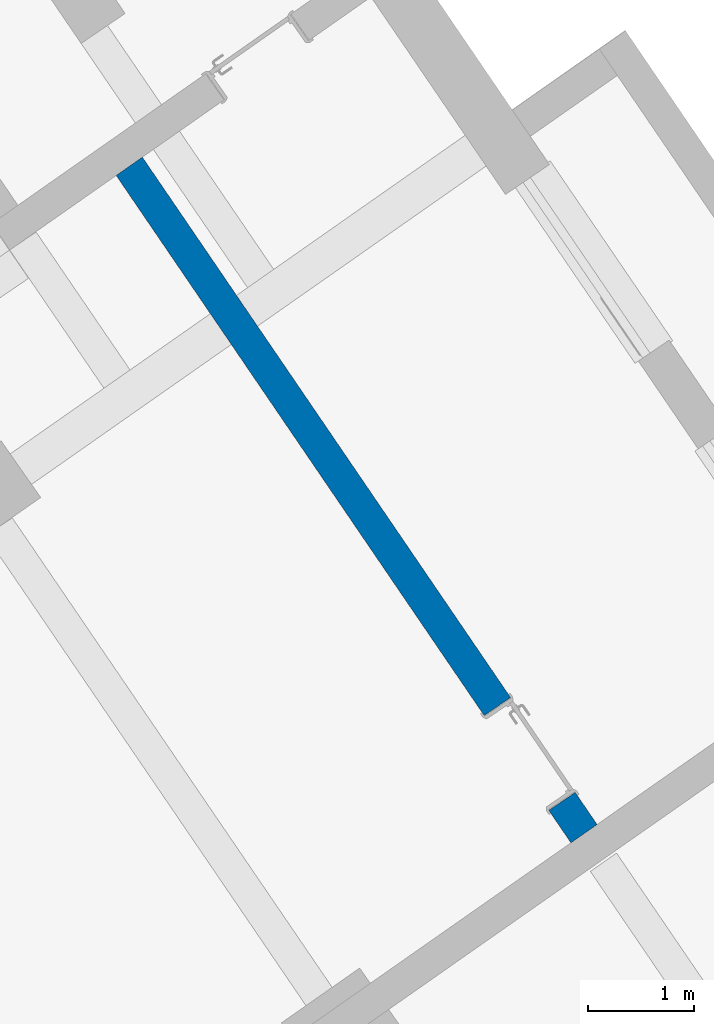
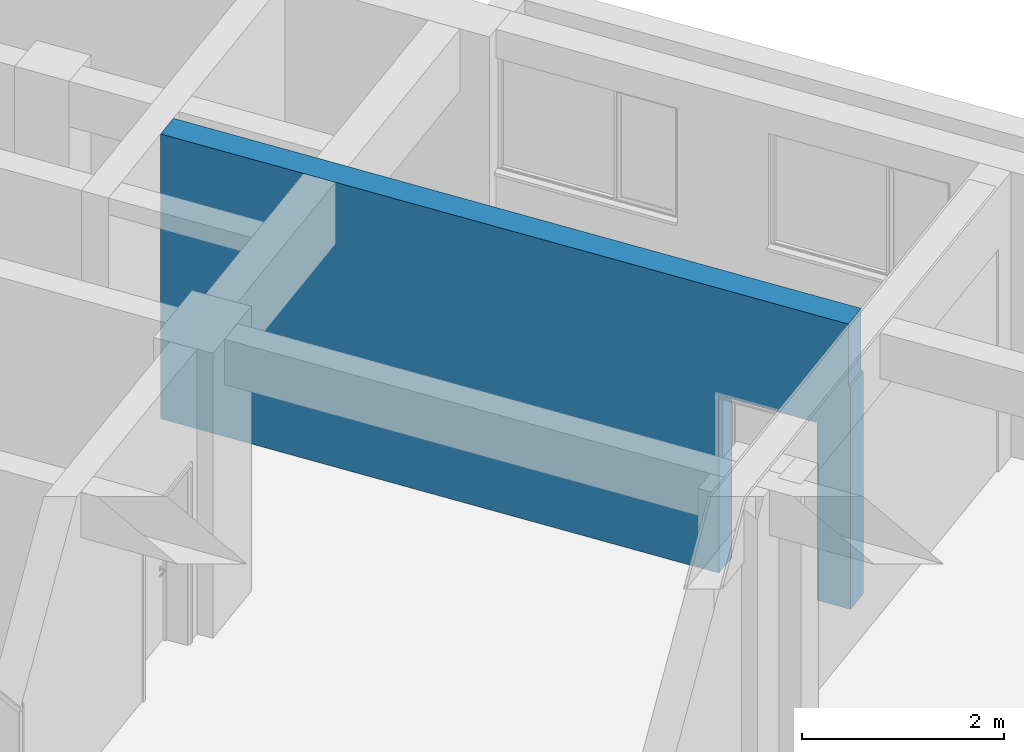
# One storey, part 85 of 112: 1 wall, 1 opening.
"""IFC2X3 building model written with IfcOpenShell, lengths in millimetres."""

from ifc_helpers import new_model, entity, si_unit, converted_unit, derived_unit, direction, frame, frame_2d, origin, place, context, subcontext, project, spatial, rectangle, extrude, faceted_brep, material, layer, layer_set, type_object, element, save


model = new_model("IFC2X3")

# Units and contexts
model_context = context("Model", 3, precision=0.01, world=origin(), true_north=direction((6.123031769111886e-17, 1.0)))
body_context = subcontext(model_context, "Body", "Model", "MODEL_VIEW")
ifc_project = project(units=[si_unit("LENGTHUNIT", "METRE", prefix="MILLI"), si_unit("AREAUNIT", "SQUARE_METRE"), si_unit("VOLUMEUNIT", "CUBIC_METRE"), converted_unit("PLANEANGLEUNIT", "DEGREE", entity("IfcRatioMeasure", 0.017453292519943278), si_unit("PLANEANGLEUNIT", "RADIAN"), dimensions=[0, 0, 0, 0, 0, 0, 0]), si_unit("MASSUNIT", "GRAM", prefix="KILO"), derived_unit("MASSDENSITYUNIT", [(si_unit("MASSUNIT", "GRAM", prefix="KILO"), 1), (si_unit("LENGTHUNIT", "METRE"), -3)]), derived_unit("MOMENTOFINERTIAUNIT", [(si_unit("LENGTHUNIT", "METRE"), 4)]), si_unit("TIMEUNIT", "SECOND"), si_unit("FREQUENCYUNIT", "HERTZ"), si_unit("THERMODYNAMICTEMPERATUREUNIT", "DEGREE_CELSIUS"), derived_unit("THERMALTRANSMITTANCEUNIT", [(si_unit("MASSUNIT", "GRAM", prefix="KILO"), 1), (si_unit("THERMODYNAMICTEMPERATUREUNIT", "KELVIN"), -1), (si_unit("TIMEUNIT", "SECOND"), -3)]), derived_unit("THERMALCONDUCTANCEUNIT", [(si_unit("MASSUNIT", "GRAM", prefix="KILO"), 1), (si_unit("LENGTHUNIT", "METRE"), 1), (si_unit("THERMODYNAMICTEMPERATUREUNIT", "KELVIN"), -1), (si_unit("TIMEUNIT", "SECOND"), -3)]), derived_unit("VOLUMETRICFLOWRATEUNIT", [(si_unit("LENGTHUNIT", "METRE"), 3), (si_unit("TIMEUNIT", "SECOND"), -1)]), derived_unit("MASSFLOWRATEUNIT", [(si_unit("MASSUNIT", "GRAM", prefix="KILO"), 1), (si_unit("TIMEUNIT", "SECOND"), -1)]), derived_unit("ROTATIONALFREQUENCYUNIT", [(si_unit("TIMEUNIT", "SECOND"), -1)]), si_unit("ELECTRICCURRENTUNIT", "AMPERE"), si_unit("ELECTRICVOLTAGEUNIT", "VOLT"), si_unit("POWERUNIT", "WATT"), converted_unit("FORCEUNIT", "KIP", entity("IfcRatioMeasure", 2.088543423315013e-05), si_unit("FORCEUNIT", "NEWTON"), dimensions=[1, 1, -2, 0, 0, 0, 0]), si_unit("ILLUMINANCEUNIT", "LUX"), si_unit("LUMINOUSFLUXUNIT", "LUMEN"), si_unit("LUMINOUSINTENSITYUNIT", "CANDELA"), derived_unit("USERDEFINED", [(si_unit("MASSUNIT", "GRAM", prefix="KILO"), -1), (si_unit("LENGTHUNIT", "METRE"), -2), (si_unit("TIMEUNIT", "SECOND"), 3), (si_unit("LUMINOUSFLUXUNIT", "LUMEN"), 1)]), derived_unit("USERDEFINED", [(si_unit("MASSUNIT", "GRAM", prefix="KILO"), 1), (si_unit("LENGTHUNIT", "METRE"), 3), (si_unit("TIMEUNIT", "SECOND"), -3), (si_unit("ELECTRICCURRENTUNIT", "AMPERE"), -2)]), derived_unit("USERDEFINED", [(si_unit("LENGTHUNIT", "METRE"), 2), (si_unit("TIMEUNIT", "SECOND"), -2)]), derived_unit("SOUNDPOWERUNIT", [(si_unit("MASSUNIT", "GRAM", prefix="KILO"), 1), (si_unit("LENGTHUNIT", "METRE"), 2), (si_unit("TIMEUNIT", "SECOND"), -3)]), derived_unit("SOUNDPRESSUREUNIT", [(si_unit("MASSUNIT", "GRAM", prefix="KILO"), 1), (si_unit("LENGTHUNIT", "METRE"), -1), (si_unit("TIMEUNIT", "SECOND"), -2)]), derived_unit("LINEARVELOCITYUNIT", [(si_unit("LENGTHUNIT", "METRE"), 1), (si_unit("TIMEUNIT", "SECOND"), -1)]), si_unit("PRESSUREUNIT", "PASCAL"), derived_unit("USERDEFINED", [(si_unit("LENGTHUNIT", "METRE"), -2), (si_unit("MASSUNIT", "GRAM", prefix="KILO"), 1), (si_unit("TIMEUNIT", "SECOND"), -2)]), derived_unit("LINEARFORCEUNIT", [(si_unit("MASSUNIT", "GRAM", prefix="KILO"), 1), (si_unit("LENGTHUNIT", "METRE"), 1), (si_unit("TIMEUNIT", "SECOND"), -2), (si_unit("LENGTHUNIT", "METRE"), -1)]), derived_unit("PLANARFORCEUNIT", [(si_unit("MASSUNIT", "GRAM", prefix="KILO"), 1), (si_unit("LENGTHUNIT", "METRE"), 1), (si_unit("TIMEUNIT", "SECOND"), -2), (si_unit("LENGTHUNIT", "METRE"), -2)]), derived_unit("SPECIFICHEATCAPACITYUNIT", [(si_unit("LENGTHUNIT", "METRE"), 2), (si_unit("TIMEUNIT", "SECOND"), -2), (si_unit("THERMODYNAMICTEMPERATUREUNIT", "KELVIN"), -1)]), derived_unit("VAPORPERMEABILITYUNIT", [(si_unit("TIMEUNIT", "SECOND"), 1), (si_unit("LENGTHUNIT", "METRE"), -1)]), derived_unit("DYNAMICVISCOSITYUNIT", [(si_unit("MASSUNIT", "GRAM", prefix="KILO"), 1), (si_unit("LENGTHUNIT", "METRE"), -1), (si_unit("TIMEUNIT", "SECOND"), -1)]), derived_unit("THERMALEXPANSIONCOEFFICIENTUNIT", [(si_unit("THERMODYNAMICTEMPERATUREUNIT", "KELVIN"), -1)])], contexts=[model_context])

# Site, building, storey
site_placement = place(None, frame((0.0, 0.0, 0.0), z_axis=(0.0, 0.0, 1.0), x_axis=(0.8191520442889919, 0.5735764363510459, 0.0)))
site = spatial("IfcSite", under=ifc_project, at=site_placement, Name="Default", CompositionType="ELEMENT")
building_placement = place(site_placement, origin())
building = spatial("IfcBuilding", under=site, at=building_placement, CompositionType="ELEMENT")
storey_placement = place(building_placement, frame((0.0, 0.0, -3600.0)))
storey = spatial("IfcBuildingStorey", under=building, at=storey_placement, Name="0.UG -3.60", CompositionType="ELEMENT", Elevation=-3600.0000000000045)

# Wall, opening
ifc_material = material(Name="Analytical Wall Surface_CJC")
ifc_layer = layer(ifc_material, 300.0)
ifc_layer_set = layer_set([ifc_layer], Name="Basic Wall:Wand_Innen_30")
wall_type = type_object("IfcWallType", Name="Basic Wall:Wand_Innen_30", PredefinedType="STANDARD", material=ifc_layer_set)
wall_placement = place(storey_placement, frame((-207483.78393334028, 158144.44947620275, 0.0), z_axis=(0.0, 0.0, 1.0), x_axis=(0.01272958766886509, 0.999918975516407, 0.0)))
wall = element("IfcWall", 1, at=wall_placement, inside=storey, type_object=wall_type, Name="Basic Wall:Wand_Innen_30", ObjectType="Basic Wall:Wand_Innen_30", context=body_context, shape_type="Brep", body=[
    faceted_brep([(7604.0290884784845, -150.0, 3450.0), (6029.307397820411, -150.0, 3450.0), (5679.279036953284, -150.0, 3450.0), (28.8212115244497, -150.0, 3450.0), (28.8212115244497, -150.0, 2700.0), (3.81918574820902, -150.0, 2700.0), (3.81918574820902, -150.0, 0.0), (370.0759134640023, -150.0, 0.0), (370.075913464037, -150.0, 2150.0), (1450.0759134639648, -150.0, 2150.0), (1450.0759134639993, -150.0, 0.0), (7604.0290884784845, -150.0, 0.0), (25.002025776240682, 150.0, 3450.0), (5675.459851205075, 150.0, 3450.0), (6025.488212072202, 150.0, 3450.0), (7600.163547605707, 150.0, 3450.0), (7600.163547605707, 150.0, 0.0), (1450.0759134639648, 150.0, 0.0), (1450.075913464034, 150.0, 2150.0), (370.0759134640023, 150.0, 2150.0), (370.07591346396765, 150.0, 0.0), (0.0, 150.0, 0.0), (0.0, 150.0, 2700.0), (25.002025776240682, 150.0, 2700.0)], [[[0, 1, 2, 3, 4, 5, 6, 7, 8, 9, 10, 11]], [[12, 13, 14, 15, 16, 17, 18, 19, 20, 21, 22, 23]], [[6, 21, 20, 7]], [[3, 2, 1, 0, 15, 14, 13, 12]], [[0, 11, 16, 15]], [[19, 8, 7, 20]], [[8, 19, 18, 9]], [[9, 18, 17, 10]], [[23, 22, 5, 4]], [[21, 6, 5, 22]], [[3, 12, 23, 4]], [[16, 11, 10, 17]]]),
])
opening_placement = place(wall_placement, frame((1450.0759134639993, 150.0, 0.0)))
element("IfcOpeningElement", 2, at=opening_placement, cuts=wall, Name="Doors_IntSgl:100x210:1", ObjectType="Opening", context=body_context, shape_type="SweptSolid", body=[
    extrude(rectangle(XDim=2150.000000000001, YDim=1079.9999999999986, at=frame_2d((1075.0000000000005, 539.9999999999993), x_axis=(1.0, 0.0))), frame((0.0, 0.0, 0.0), z_axis=(0.0, -1.0, 0.0), x_axis=(0.0, 0.0, 1.0)), (0.0, 0.0, 1.0), 299.9999999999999),
])

save(model, "model.ifc")
